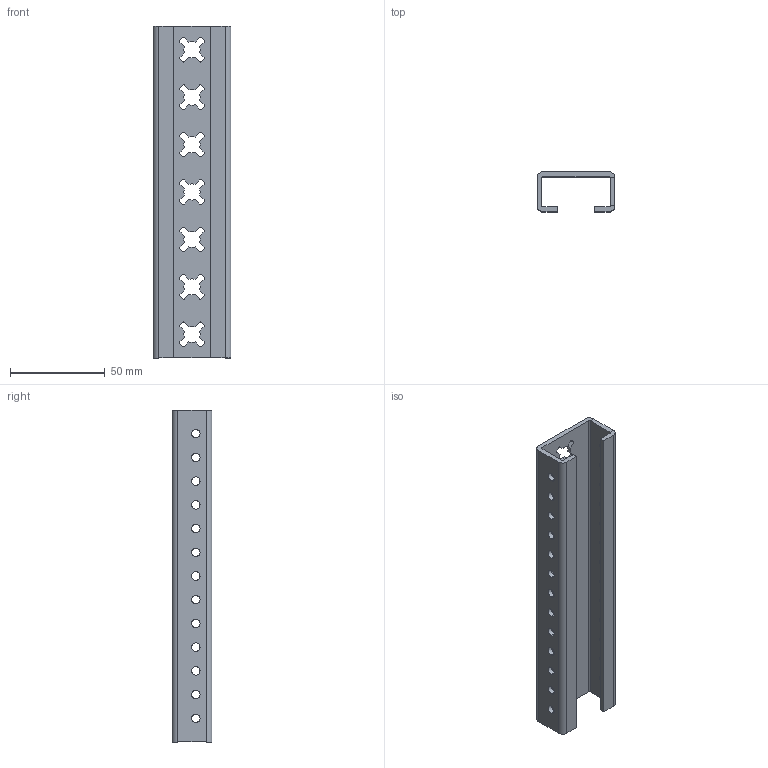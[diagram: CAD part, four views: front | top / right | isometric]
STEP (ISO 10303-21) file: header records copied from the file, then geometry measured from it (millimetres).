
FILE_DESCRIPTION(('CAx-IF Rec.Pracs.---Model Styling and Organization---1.2---2011-12-15','CAx-IF Rec.Pracs.---Geometric and Assembly Validation Properties---4.1---2014-06-16','CAx-IF Rec.Pracs.---PMI Polyline Presentation---2.0---2013-05-24'),'2;1');
FILE_NAME('R5BBMR175.stp','2021-05-06T03:15:51+03:00',(''),(''),'STEP Interface 4.4 by CT CoreTechnologie','3D_Evolution4.4 by CT CoreTechnologie','');
FILE_SCHEMA(('AUTOMOTIVE_DESIGN { 1 0 10303 214 1 1 1 1 }'));
Length unit declared in the file: millimetre
Products named in the file (2): R5BBMR175; RB.1308.00.00.0_-00
Assembly tree (1 placements, depth 2):
  R5BBMR175
    RB.1308.00.00.0_-00
Bounding box: 41 x 21 x 175 mm (x, y, z)
Surface area: 32726.6 mm2 (no closed solid volume)
Topology: 0 solids, 1 shells, 267 faces, 787 edges, 522 vertices
Faces by surface type: cylinder 165, plane 102
Entity records: 9232 total; most frequent: DIRECTION 1655, CARTESIAN_POINT 1578, ORIENTED_EDGE 1574, EDGE_CURVE 787, AXIS2_PLACEMENT_3D 599, VERTEX_POINT 522, VECTOR 457, LINE 457
